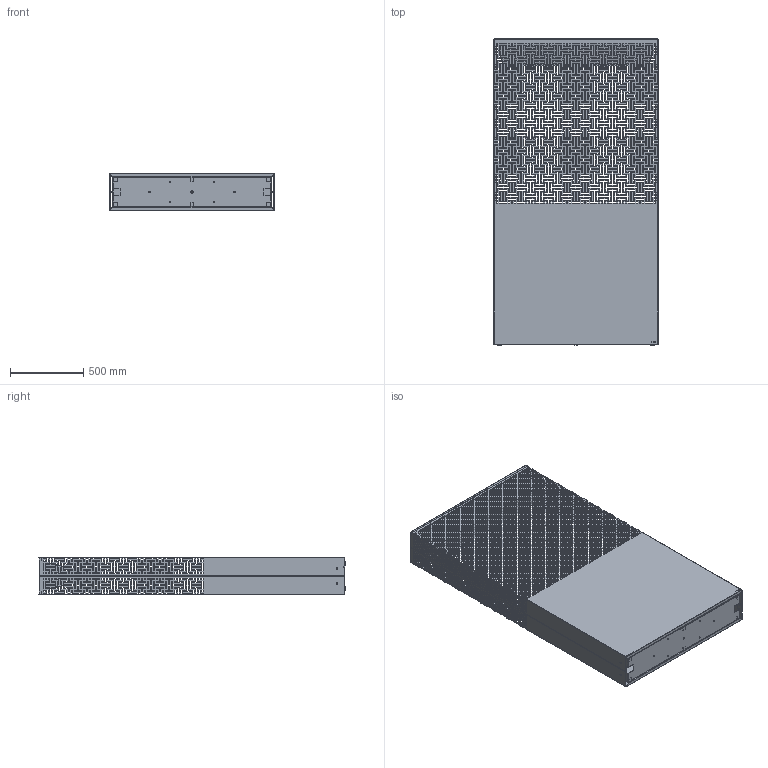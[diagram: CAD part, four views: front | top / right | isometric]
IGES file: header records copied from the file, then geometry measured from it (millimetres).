
Start section: SolidWorks IGES file using analytic representation for surfaces
Global section: file name: C:\VaultDeCastelli\Progetti\DC\PESO LEGGERO PRODOTTI\Ale\DeCastelli-3D-Demetra 210.igs; native system: SolidWorks 2022; preprocessor: SolidWorks 2022; author: AlessandroP; date: 240802.102849; units: millimetre
Bounding box: 1131.6 x 2095.39 x 252.5 mm (x, y, z)
Surface area: 10694623.7 mm2 (no closed solid volume)
Topology: 0 solids, 0 shells, 4935 faces, 42468 edges, 42468 vertices
Faces by surface type: bspline 4783, revolution 152
